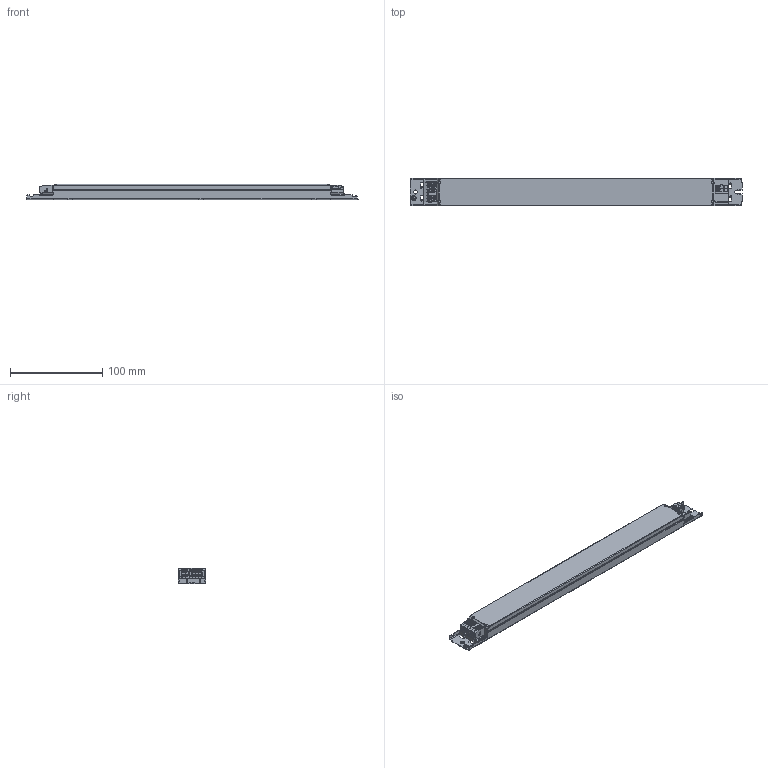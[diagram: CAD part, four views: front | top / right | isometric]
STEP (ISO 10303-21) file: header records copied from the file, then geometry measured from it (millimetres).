
FILE_DESCRIPTION((''),'2;1');
FILE_NAME('15014602Z_DMEC_360X30X16-3','2021-07-19T15:25:22',('Emanuel.Wild'),(''),'CREO PARAMETRIC BY PTC INC, 2019164','CREO PARAMETRIC BY PTC INC, 2019164','');
FILE_SCHEMA(('CONFIG_CONTROL_DESIGN'));
Products named in the file (1): 15014602Z_DMEC_360X30X16-3
Bounding box: 360 x 30 x 16.3 mm (x, y, z)
Volume: 154927.6 mm3; surface area: 36241.9 mm2
Topology: 1 solids, 3 shells, 2396 faces, 6465 edges, 3982 vertices
Faces by surface type: plane 1221, cylinder 824, bspline 143, sphere 105, cone 75, torus 28
Entity records: 76909 total; most frequent: CARTESIAN_POINT 17811, ORIENTED_EDGE 12684, DIRECTION 11996, EDGE_CURVE 6342, VECTOR 4102, LINE 4102, VERTEX_POINT 3982, AXIS2_PLACEMENT_3D 3947
